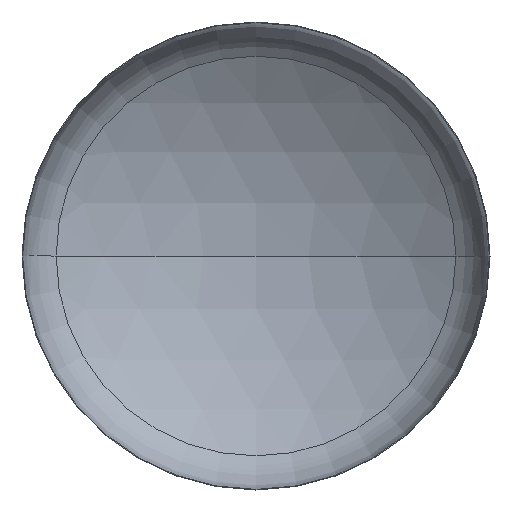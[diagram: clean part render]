
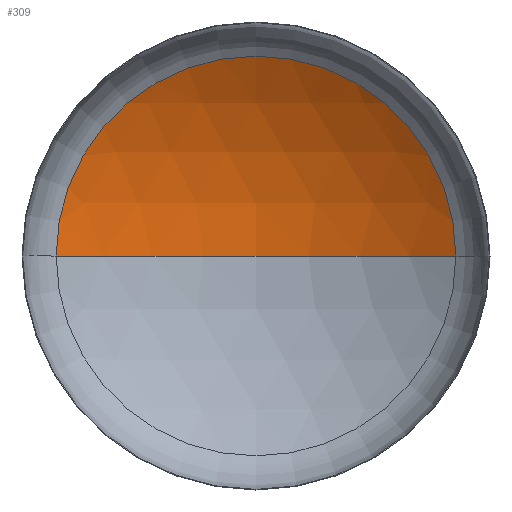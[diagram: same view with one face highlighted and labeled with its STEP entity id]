
A CAD part, front view. The second image highlights one B-rep face of the part: STEP entity #309.
In plain terms, the highlighted spherical face has radius 3200 mm.
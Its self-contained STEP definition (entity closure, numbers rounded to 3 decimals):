
#1 = DIRECTION ( 'NONE',  ( -1., 0., 0. ) ) ;
#5 = DIRECTION ( 'NONE',  ( 1., 0., 0. ) ) ;
#8 = AXIS2_PLACEMENT_3D ( 'NONE', #116, #183, #155 ) ;
#13 = DIRECTION ( 'NONE',  ( 0., 0., 1. ) ) ;
#16 = CARTESIAN_POINT ( 'NONE',  ( 0., -2165.824, 0. ) ) ;
#22 = ORIENTED_EDGE ( 'NONE', *, *, #82, .T. ) ;
#25 = DIRECTION ( 'NONE',  ( 0., 0., -1. ) ) ;
#29 = EDGE_LOOP ( 'NONE', ( #51, #22, #37 ) ) ;
#33 = AXIS2_PLACEMENT_3D ( 'NONE', #16, #13, #5 ) ;
#35 = AXIS2_PLACEMENT_3D ( 'NONE', #262, #25, #1 ) ;
#37 = ORIENTED_EDGE ( 'NONE', *, *, #81, .T. ) ;
#38 = AXIS2_PLACEMENT_3D ( 'NONE', #214, #198, #200 ) ;
#47 = VERTEX_POINT ( 'NONE', #293 ) ;
#51 = ORIENTED_EDGE ( 'NONE', *, *, #83, .F. ) ;
#77 = VERTEX_POINT ( 'NONE', #313 ) ;
#81 = EDGE_CURVE ( 'NONE', #47, #276, #303, .T. ) ;
#82 = EDGE_CURVE ( 'NONE', #77, #47, #191, .T. ) ;
#83 = EDGE_CURVE ( 'NONE', #77, #276, #182, .T. ) ;
#116 = CARTESIAN_POINT ( 'NONE',  ( 0., -2165.824, 0. ) ) ;
#155 = DIRECTION ( 'NONE',  ( -1., 0., 0. ) ) ;
#182 = CIRCLE ( 'NONE', #33, 3200. ) ;
#183 = DIRECTION ( 'NONE',  ( 0., 0., -1. ) ) ;
#191 = CIRCLE ( 'NONE', #35, 3200. ) ;
#198 = DIRECTION ( 'NONE',  ( 0., -1., 0. ) ) ;
#200 = DIRECTION ( 'NONE',  ( 1., 0., 0. ) ) ;
#214 = CARTESIAN_POINT ( 'NONE',  ( 0., 540.032, 0. ) ) ;
#262 = CARTESIAN_POINT ( 'NONE',  ( 0., -2165.824, 0. ) ) ;
#276 = VERTEX_POINT ( 'NONE', #406 ) ;
#283 = FACE_OUTER_BOUND ( 'NONE', #29, .T. ) ;
#293 = CARTESIAN_POINT ( 'NONE',  ( 1708.317, 540.032, 0. ) ) ;
#303 = CIRCLE ( 'NONE', #38, 1708.317 ) ;
#309 = ADVANCED_FACE ( 'NONE', ( #283 ), #356, .F. ) ;
#313 = CARTESIAN_POINT ( 'NONE',  ( 0., 1034.176, 0. ) ) ;
#356 = SPHERICAL_SURFACE ( 'NONE', #8, 3200. ) ;
#406 = CARTESIAN_POINT ( 'NONE',  ( -1708.317, 540.032, 0. ) ) ;
